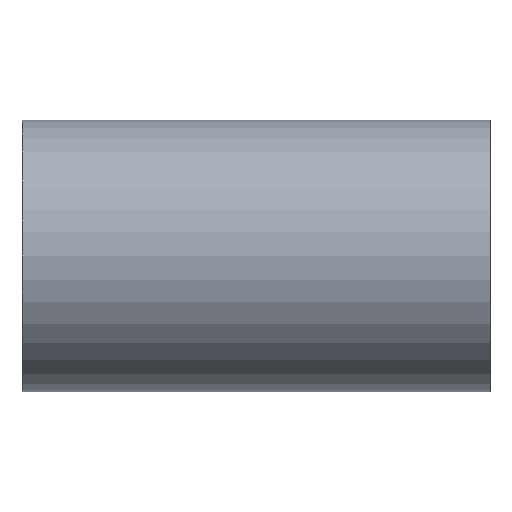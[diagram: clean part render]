
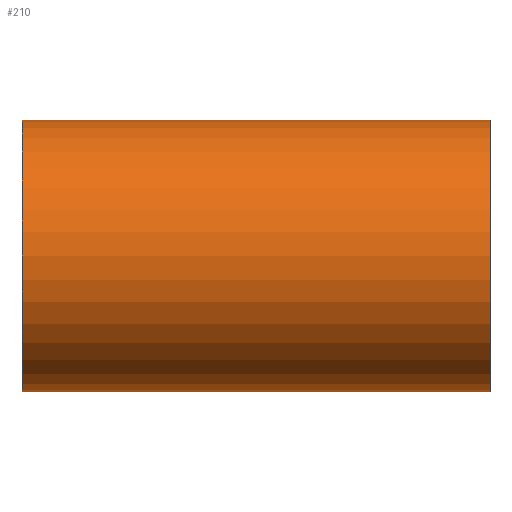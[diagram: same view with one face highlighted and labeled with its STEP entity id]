
A CAD part, front view. The second image highlights one B-rep face of the part: STEP entity #210.
In plain terms, the highlighted cylindrical face has radius 725 mm (diameter 1450 mm), a partial arc.
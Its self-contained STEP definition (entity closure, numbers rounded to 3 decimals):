
#210=ADVANCED_FACE('',(#422),#423,.T.);
#422=FACE_OUTER_BOUND('',#669,.T.);
#423=CYLINDRICAL_SURFACE('',#670,725.0);
#669=EDGE_LOOP('',(#1231,#1232,#1233,#1234));
#670=AXIS2_PLACEMENT_3D('',#1235,#1236,#1237);
#1231=ORIENTED_EDGE('',*,*,#1335,.T.);
#1232=ORIENTED_EDGE('',*,*,#1573,.F.);
#1233=ORIENTED_EDGE('',*,*,#1337,.T.);
#1234=ORIENTED_EDGE('',*,*,#1574,.F.);
#1235=CARTESIAN_POINT('',(0.0,0.0,0.0));
#1236=DIRECTION('',(1.0,0.0,0.0));
#1237=DIRECTION('',(0.0,0.0,-1.0));
#1335=EDGE_CURVE('',#1578,#1579,#1580,.T.);
#1337=EDGE_CURVE('',#1583,#1581,#1584,.T.);
#1573=EDGE_CURVE('',#1583,#1579,#1935,.T.);
#1574=EDGE_CURVE('',#1578,#1581,#1936,.T.);
#1578=VERTEX_POINT('',#1940);
#1579=VERTEX_POINT('',#1941);
#1580=LINE('',#1942,#1943);
#1581=VERTEX_POINT('',#1944);
#1583=VERTEX_POINT('',#1946);
#1584=LINE('',#1947,#1948);
#1935=CIRCLE('',#2367,725.0);
#1936=CIRCLE('',#2368,725.0);
#1940=CARTESIAN_POINT('',(-1250.0,0.0,-725.0));
#1941=CARTESIAN_POINT('',(1250.0,0.0,-725.0));
#1942=CARTESIAN_POINT('',(0.0,0.,-725.0));
#1943=VECTOR('',#2371,1.0);
#1944=CARTESIAN_POINT('',(-1250.0,0.,725.0));
#1946=CARTESIAN_POINT('',(1250.0,0.,725.0));
#1947=CARTESIAN_POINT('',(0.0,0.,725.0));
#1948=VECTOR('',#2375,1.0);
#2367=AXIS2_PLACEMENT_3D('',#2762,#2763,#2764);
#2368=AXIS2_PLACEMENT_3D('',#2765,#2766,#2767);
#2371=DIRECTION('',(1.0,0.0,0.0));
#2375=DIRECTION('',(-1.0,-0.0,-0.0));
#2762=CARTESIAN_POINT('',(1250.0,0.0,0.0));
#2763=DIRECTION('',(1.0,0.0,0.0));
#2764=DIRECTION('',(0.0,0.0,-1.0));
#2765=CARTESIAN_POINT('',(-1250.0,0.0,0.0));
#2766=DIRECTION('',(-1.0,0.0,0.0));
#2767=DIRECTION('',(0.0,0.0,-1.0));
